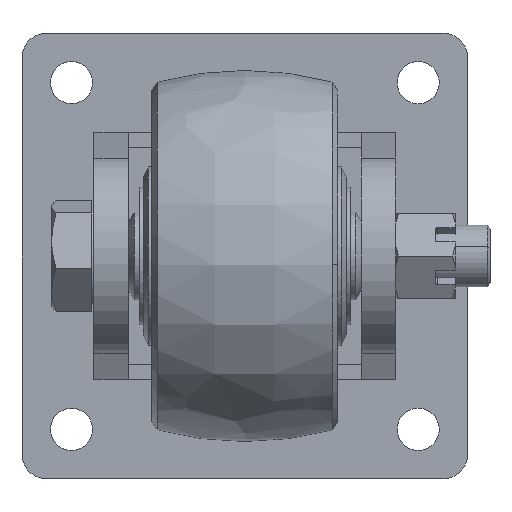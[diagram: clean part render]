
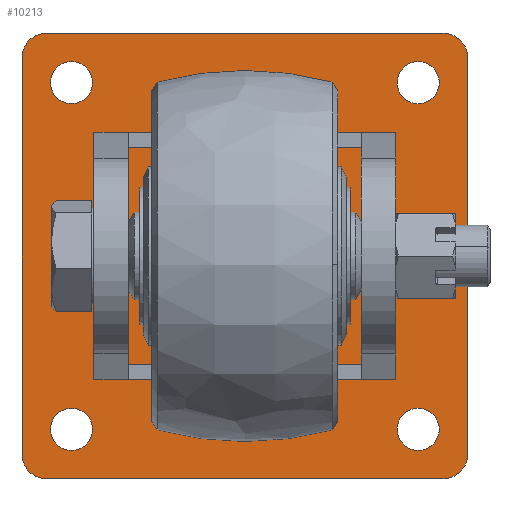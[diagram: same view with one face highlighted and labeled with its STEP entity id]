
A CAD part, front view. The second image highlights one B-rep face of the part: STEP entity #10213.
In plain terms, the highlighted planar face has unit normal (0, -1, 0).
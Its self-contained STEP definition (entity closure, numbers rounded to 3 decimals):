
#7 = EDGE_LOOP ( 'NONE', ( #2145, #4685 ) ) ;
#149 = LINE ( 'NONE', #1746, #812 ) ;
#153 = DIRECTION ( 'NONE',  ( 0., 1., 0. ) ) ;
#218 = VERTEX_POINT ( 'NONE', #8446 ) ;
#240 = ORIENTED_EDGE ( 'NONE', *, *, #7191, .T. ) ;
#437 = DIRECTION ( 'NONE',  ( 0., 0., -1. ) ) ;
#472 = DIRECTION ( 'NONE',  ( 0., 0., -1. ) ) ;
#544 = FACE_BOUND ( 'NONE', #7, .T. ) ;
#564 = AXIS2_PLACEMENT_3D ( 'NONE', #7473, #153, #6623 ) ;
#582 = CARTESIAN_POINT ( 'NONE',  ( -72.892, -15.783, 61.5 ) ) ;
#680 = CIRCLE ( 'NONE', #4364, 10. ) ;
#692 = DIRECTION ( 'NONE',  ( 0., 0., -1. ) ) ;
#736 = VERTEX_POINT ( 'NONE', #9091 ) ;
#790 = EDGE_CURVE ( 'NONE', #6632, #7460, #10514, .T. ) ;
#812 = VECTOR ( 'NONE', #4078, 1000. ) ;
#865 = ORIENTED_EDGE ( 'NONE', *, *, #9357, .F. ) ;
#922 = EDGE_CURVE ( 'NONE', #3788, #6026, #6688, .T. ) ;
#930 = FACE_BOUND ( 'NONE', #8653, .T. ) ;
#989 = DIRECTION ( 'NONE',  ( 0., 1., 0. ) ) ;
#1198 = LINE ( 'NONE', #7735, #2486 ) ;
#1215 = DIRECTION ( 'NONE',  ( 0., 0., -1. ) ) ;
#1251 = DIRECTION ( 'NONE',  ( 0., 0., -1. ) ) ;
#1424 = CIRCLE ( 'NONE', #7554, 8.5 ) ;
#1485 = CARTESIAN_POINT ( 'NONE',  ( 67.108, -15.783, 61.5 ) ) ;
#1488 = EDGE_LOOP ( 'NONE', ( #2696, #10293 ) ) ;
#1594 = DIRECTION ( 'NONE',  ( 0., 1., 0. ) ) ;
#1654 = ORIENTED_EDGE ( 'NONE', *, *, #790, .F. ) ;
#1733 = EDGE_CURVE ( 'NONE', #6172, #736, #680, .T. ) ;
#1746 = CARTESIAN_POINT ( 'NONE',  ( 87.108, -15.783, 90. ) ) ;
#1765 = EDGE_CURVE ( 'NONE', #6172, #5088, #5298, .T. ) ;
#1870 = AXIS2_PLACEMENT_3D ( 'NONE', #5910, #989, #4352 ) ;
#1897 = CARTESIAN_POINT ( 'NONE',  ( -92.892, -15.783, 90. ) ) ;
#1930 = VERTEX_POINT ( 'NONE', #5087 ) ;
#2016 = DIRECTION ( 'NONE',  ( 0., 0., -1. ) ) ;
#2145 = ORIENTED_EDGE ( 'NONE', *, *, #10189, .T. ) ;
#2329 = VERTEX_POINT ( 'NONE', #3373 ) ;
#2486 = VECTOR ( 'NONE', #1251, 1000. ) ;
#2492 = AXIS2_PLACEMENT_3D ( 'NONE', #9451, #7883, #9417 ) ;
#2578 = ORIENTED_EDGE ( 'NONE', *, *, #9041, .T. ) ;
#2644 = VERTEX_POINT ( 'NONE', #5720 ) ;
#2696 = ORIENTED_EDGE ( 'NONE', *, *, #5760, .T. ) ;
#2727 = FACE_BOUND ( 'NONE', #6515, .T. ) ;
#2754 = DIRECTION ( 'NONE',  ( 0., 1., 0. ) ) ;
#2839 = DIRECTION ( 'NONE',  ( 1., 0., 0. ) ) ;
#3008 = EDGE_CURVE ( 'NONE', #2644, #5789, #3111, .T. ) ;
#3111 = CIRCLE ( 'NONE', #4273, 8.5 ) ;
#3137 = EDGE_CURVE ( 'NONE', #3270, #9659, #149, .T. ) ;
#3270 = VERTEX_POINT ( 'NONE', #9287 ) ;
#3327 = ORIENTED_EDGE ( 'NONE', *, *, #6986, .T. ) ;
#3373 = CARTESIAN_POINT ( 'NONE',  ( 77.108, -15.783, 90. ) ) ;
#3377 = AXIS2_PLACEMENT_3D ( 'NONE', #9308, #10046, #2016 ) ;
#3521 = ORIENTED_EDGE ( 'NONE', *, *, #1765, .T. ) ;
#3574 = CARTESIAN_POINT ( 'NONE',  ( 67.108, -15.783, -61.5 ) ) ;
#3605 = PLANE ( 'NONE',  #3377 ) ;
#3648 = DIRECTION ( 'NONE',  ( 0., 1., 0. ) ) ;
#3688 = CARTESIAN_POINT ( 'NONE',  ( -82.892, -15.783, -90. ) ) ;
#3788 = VERTEX_POINT ( 'NONE', #7608 ) ;
#3874 = DIRECTION ( 'NONE',  ( 0., 1., 0. ) ) ;
#3885 = DIRECTION ( 'NONE',  ( 0., 1., 0. ) ) ;
#3917 = CARTESIAN_POINT ( 'NONE',  ( -72.892, -15.783, -70. ) ) ;
#3926 = VERTEX_POINT ( 'NONE', #1485 ) ;
#4078 = DIRECTION ( 'NONE',  ( 0., 0., 1. ) ) ;
#4079 = ORIENTED_EDGE ( 'NONE', *, *, #8583, .F. ) ;
#4238 = AXIS2_PLACEMENT_3D ( 'NONE', #6891, #4491, #437 ) ;
#4273 = AXIS2_PLACEMENT_3D ( 'NONE', #7623, #2754, #8434 ) ;
#4275 = AXIS2_PLACEMENT_3D ( 'NONE', #10227, #3874, #472 ) ;
#4352 = DIRECTION ( 'NONE',  ( 0., 0., -1. ) ) ;
#4364 = AXIS2_PLACEMENT_3D ( 'NONE', #6145, #5307, #7746 ) ;
#4491 = DIRECTION ( 'NONE',  ( 0., 1., 0. ) ) ;
#4622 = DIRECTION ( 'NONE',  ( 0., 0., -1. ) ) ;
#4665 = ORIENTED_EDGE ( 'NONE', *, *, #922, .T. ) ;
#4673 = CIRCLE ( 'NONE', #564, 10. ) ;
#4685 = ORIENTED_EDGE ( 'NONE', *, *, #3008, .T. ) ;
#4813 = CIRCLE ( 'NONE', #1870, 10. ) ;
#4831 = LINE ( 'NONE', #1897, #7120 ) ;
#5087 = CARTESIAN_POINT ( 'NONE',  ( -72.892, -15.783, -78.5 ) ) ;
#5088 = VERTEX_POINT ( 'NONE', #5652 ) ;
#5298 = LINE ( 'NONE', #10190, #8329 ) ;
#5307 = DIRECTION ( 'NONE',  ( 0., 1., 0. ) ) ;
#5652 = CARTESIAN_POINT ( 'NONE',  ( 77.108, -15.783, -90. ) ) ;
#5720 = CARTESIAN_POINT ( 'NONE',  ( -72.892, -15.783, 78.5 ) ) ;
#5741 = VERTEX_POINT ( 'NONE', #6326 ) ;
#5760 = EDGE_CURVE ( 'NONE', #1930, #218, #1424, .T. ) ;
#5789 = VERTEX_POINT ( 'NONE', #582 ) ;
#5910 = CARTESIAN_POINT ( 'NONE',  ( 77.108, -15.783, 80. ) ) ;
#5973 = AXIS2_PLACEMENT_3D ( 'NONE', #8449, #3648, #1215 ) ;
#5993 = ORIENTED_EDGE ( 'NONE', *, *, #9963, .T. ) ;
#6026 = VERTEX_POINT ( 'NONE', #3574 ) ;
#6145 = CARTESIAN_POINT ( 'NONE',  ( -82.892, -15.783, -80. ) ) ;
#6172 = VERTEX_POINT ( 'NONE', #3688 ) ;
#6177 = DIRECTION ( 'NONE',  ( 0., 1., 0. ) ) ;
#6326 = CARTESIAN_POINT ( 'NONE',  ( 67.108, -15.783, 78.5 ) ) ;
#6414 = FACE_BOUND ( 'NONE', #1488, .T. ) ;
#6515 = EDGE_LOOP ( 'NONE', ( #8783, #3327 ) ) ;
#6623 = DIRECTION ( 'NONE',  ( 0., 0., -1. ) ) ;
#6632 = VERTEX_POINT ( 'NONE', #7052 ) ;
#6688 = CIRCLE ( 'NONE', #10105, 8.5 ) ;
#6891 = CARTESIAN_POINT ( 'NONE',  ( 67.108, -15.783, 70. ) ) ;
#6986 = EDGE_CURVE ( 'NONE', #5741, #3926, #9511, .T. ) ;
#7052 = CARTESIAN_POINT ( 'NONE',  ( -92.892, -15.783, 80. ) ) ;
#7120 = VECTOR ( 'NONE', #9158, 1000. ) ;
#7187 = CIRCLE ( 'NONE', #5973, 8.5 ) ;
#7191 = EDGE_CURVE ( 'NONE', #2329, #7460, #4831, .T. ) ;
#7460 = VERTEX_POINT ( 'NONE', #9947 ) ;
#7473 = CARTESIAN_POINT ( 'NONE',  ( 77.108, -15.783, -80. ) ) ;
#7554 = AXIS2_PLACEMENT_3D ( 'NONE', #3917, #1594, #10452 ) ;
#7562 = FACE_OUTER_BOUND ( 'NONE', #9943, .T. ) ;
#7608 = CARTESIAN_POINT ( 'NONE',  ( 67.108, -15.783, -78.5 ) ) ;
#7623 = CARTESIAN_POINT ( 'NONE',  ( -72.892, -15.783, 70. ) ) ;
#7735 = CARTESIAN_POINT ( 'NONE',  ( -92.892, -15.783, 90. ) ) ;
#7746 = DIRECTION ( 'NONE',  ( 0., 0., -1. ) ) ;
#7883 = DIRECTION ( 'NONE',  ( 0., 1., 0. ) ) ;
#8003 = CARTESIAN_POINT ( 'NONE',  ( 67.108, -15.783, -70. ) ) ;
#8178 = CARTESIAN_POINT ( 'NONE',  ( 87.108, -15.783, 80. ) ) ;
#8329 = VECTOR ( 'NONE', #2839, 1000. ) ;
#8431 = CARTESIAN_POINT ( 'NONE',  ( -82.892, -15.783, 80. ) ) ;
#8434 = DIRECTION ( 'NONE',  ( 0., 0., -1. ) ) ;
#8446 = CARTESIAN_POINT ( 'NONE',  ( -72.892, -15.783, -61.5 ) ) ;
#8449 = CARTESIAN_POINT ( 'NONE',  ( -72.892, -15.783, 70. ) ) ;
#8493 = AXIS2_PLACEMENT_3D ( 'NONE', #8690, #6177, #4622 ) ;
#8583 = EDGE_CURVE ( 'NONE', #2329, #9659, #4813, .T. ) ;
#8653 = EDGE_LOOP ( 'NONE', ( #4665, #5993 ) ) ;
#8690 = CARTESIAN_POINT ( 'NONE',  ( 67.108, -15.783, 70. ) ) ;
#8701 = CIRCLE ( 'NONE', #8493, 8.5 ) ;
#8783 = ORIENTED_EDGE ( 'NONE', *, *, #10385, .T. ) ;
#9041 = EDGE_CURVE ( 'NONE', #6632, #736, #1198, .T. ) ;
#9071 = CIRCLE ( 'NONE', #4275, 8.5 ) ;
#9091 = CARTESIAN_POINT ( 'NONE',  ( -92.892, -15.783, -80. ) ) ;
#9128 = ORIENTED_EDGE ( 'NONE', *, *, #1733, .F. ) ;
#9158 = DIRECTION ( 'NONE',  ( -1., 0., 0. ) ) ;
#9187 = DIRECTION ( 'NONE',  ( 0., 1., 0. ) ) ;
#9221 = DIRECTION ( 'NONE',  ( 0., 0., -1. ) ) ;
#9287 = CARTESIAN_POINT ( 'NONE',  ( 87.108, -15.783, -80. ) ) ;
#9308 = CARTESIAN_POINT ( 'NONE',  ( -2.892, -15.783, 0. ) ) ;
#9357 = EDGE_CURVE ( 'NONE', #3270, #5088, #4673, .T. ) ;
#9417 = DIRECTION ( 'NONE',  ( 0., 0., -1. ) ) ;
#9451 = CARTESIAN_POINT ( 'NONE',  ( -72.892, -15.783, -70. ) ) ;
#9511 = CIRCLE ( 'NONE', #4238, 8.5 ) ;
#9659 = VERTEX_POINT ( 'NONE', #8178 ) ;
#9943 = EDGE_LOOP ( 'NONE', ( #2578, #9128, #3521, #865, #10153, #4079, #240, #1654 ) ) ;
#9947 = CARTESIAN_POINT ( 'NONE',  ( -82.892, -15.783, 90. ) ) ;
#9963 = EDGE_CURVE ( 'NONE', #6026, #3788, #9071, .T. ) ;
#10046 = DIRECTION ( 'NONE',  ( 0., -1., 0. ) ) ;
#10105 = AXIS2_PLACEMENT_3D ( 'NONE', #8003, #3885, #692 ) ;
#10153 = ORIENTED_EDGE ( 'NONE', *, *, #3137, .T. ) ;
#10189 = EDGE_CURVE ( 'NONE', #5789, #2644, #7187, .T. ) ;
#10190 = CARTESIAN_POINT ( 'NONE',  ( -92.892, -15.783, -90. ) ) ;
#10213 = ADVANCED_FACE ( 'NONE', ( #7562, #6414, #544, #2727, #930 ), #3605, .T. ) ;
#10227 = CARTESIAN_POINT ( 'NONE',  ( 67.108, -15.783, -70. ) ) ;
#10249 = AXIS2_PLACEMENT_3D ( 'NONE', #8431, #9187, #9221 ) ;
#10293 = ORIENTED_EDGE ( 'NONE', *, *, #10485, .T. ) ;
#10359 = CIRCLE ( 'NONE', #2492, 8.5 ) ;
#10385 = EDGE_CURVE ( 'NONE', #3926, #5741, #8701, .T. ) ;
#10452 = DIRECTION ( 'NONE',  ( 0., 0., -1. ) ) ;
#10485 = EDGE_CURVE ( 'NONE', #218, #1930, #10359, .T. ) ;
#10514 = CIRCLE ( 'NONE', #10249, 10. ) ;
